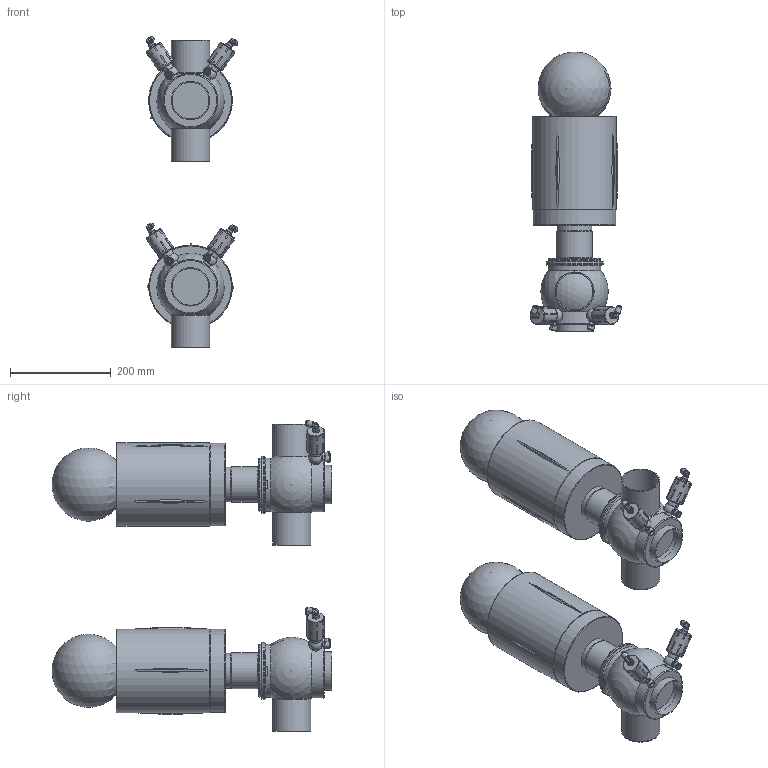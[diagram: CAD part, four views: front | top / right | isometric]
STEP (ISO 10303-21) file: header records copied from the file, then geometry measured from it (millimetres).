
FILE_DESCRIPTION(/* description */ (''),/* implementation_level */ '2;1');
FILE_NAME(/* name */ 'C:\Users\marz-m\Downloads\BZZAW3 3D STEP\BZAW3-DN76.2x1.65-SAL.stp',/* time_stamp */ '2018-09-26T15:04:30+02:00',/* author */ ('marz-m'),/* organization */ (''),/* preprocessor_version */ 'ST-DEVELOPER v17',/* originating_system */ 'Autodesk Inventor 2018',/* authorisation */ '');
FILE_SCHEMA (('AUTOMOTIVE_DESIGN { 1 0 10303 214 3 1 1 }'));
Length unit declared in the file: millimetre
Products named in the file (7): BZAW3-DN76.2x1.65-SAL; TRH5C0300BBA; TRH6C0300BBA; SAGOMA-GIOTTO-; Assemblaggio-DN080; CIL156; Valvolina 3A
Assembly tree (12 placements, depth 2):
  BZAW3-DN76.2x1.65-SAL
    SAGOMA-GIOTTO-  x2
    CIL156  x2
    Assemblaggio-DN080  x2
    Valvolina 3A  x4
    TRH5C0300BBA
    TRH6C0300BBA
Bounding box: 181.9 x 554.97 x 616.47 mm (x, y, z)
Volume: 16051042.7 mm3; surface area: 823917.2 mm2
Topology: 12 solids, 12 shells, 644 faces, 1843 edges, 1299 vertices
Faces by surface type: plane 279, cylinder 192, cone 89, bspline 52, torus 21, sphere 11
Full cylindrical faces by diameter (mm): 2 x8, 6 x16, 7 x4, 8 x4, 8.1 x4, 10 x4, 11 x4, 11.5 x4, 12.918 x4, 13.157 x4, 14 x4, 15.9 x4, 16 x4, 20 x4, 22 x4, 35 x4, 69 x2, 71 x2, 72.9 x5, 76.2 x5, 105 x4, 108 x2, 113 x4, 164.5 x2, 166 x2
Entity records: 10341 total; most frequent: CARTESIAN_POINT 3841, DIRECTION 1301, ORIENTED_EDGE 1284, EDGE_CURVE 642, AXIS2_PLACEMENT_3D 549, VERTEX_POINT 464, CIRCLE 305, EDGE_LOOP 272
